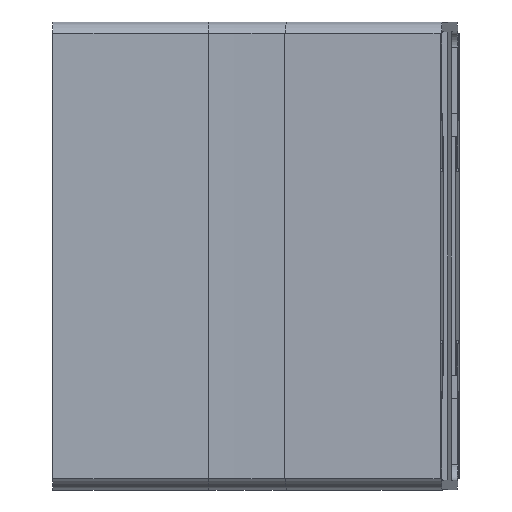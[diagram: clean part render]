
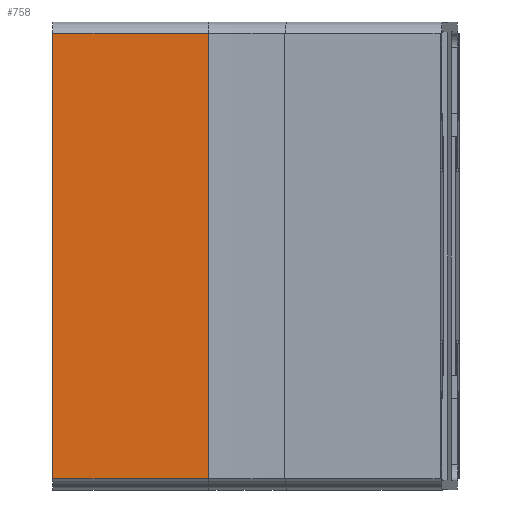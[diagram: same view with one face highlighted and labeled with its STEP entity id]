
A CAD part, front view. The second image highlights one B-rep face of the part: STEP entity #758.
In plain terms, the highlighted planar face has unit normal (0, -1, 0).
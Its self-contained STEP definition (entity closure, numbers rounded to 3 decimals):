
#38 = CARTESIAN_POINT ( 'NONE',  ( 40., -56.5, 57.15 ) ) ;
#56 = EDGE_CURVE ( 'NONE', #2858, #98, #503, .T. ) ;
#98 = VERTEX_POINT ( 'NONE', #3702 ) ;
#103 = ORIENTED_EDGE ( 'NONE', *, *, #4933, .T. ) ;
#122 = ORIENTED_EDGE ( 'NONE', *, *, #56, .F. ) ;
#437 = VECTOR ( 'NONE', #2116, 1000. ) ;
#448 = LINE ( 'NONE', #5417, #3785 ) ;
#461 = DIRECTION ( 'NONE',  ( -1., 0., 0. ) ) ;
#503 = LINE ( 'NONE', #5402, #5022 ) ;
#683 = DIRECTION ( 'NONE',  ( 0., 0., 1. ) ) ;
#758 = ADVANCED_FACE ( 'NONE', ( #1418 ), #1976, .F. ) ;
#866 = EDGE_CURVE ( 'NONE', #4201, #98, #5114, .T. ) ;
#1078 = DIRECTION ( 'NONE',  ( 0., 0., -1. ) ) ;
#1418 = FACE_OUTER_BOUND ( 'NONE', #2540, .T. ) ;
#1652 = CARTESIAN_POINT ( 'NONE',  ( 0., -56.5, -57.15 ) ) ;
#1976 = PLANE ( 'NONE',  #4661 ) ;
#2081 = VERTEX_POINT ( 'NONE', #5623 ) ;
#2116 = DIRECTION ( 'NONE',  ( 0., 0., -1. ) ) ;
#2409 = DIRECTION ( 'NONE',  ( 0., 1., 0. ) ) ;
#2540 = EDGE_LOOP ( 'NONE', ( #2838, #103, #3566, #122 ) ) ;
#2838 = ORIENTED_EDGE ( 'NONE', *, *, #3829, .F. ) ;
#2858 = VERTEX_POINT ( 'NONE', #5459 ) ;
#3566 = ORIENTED_EDGE ( 'NONE', *, *, #866, .T. ) ;
#3702 = CARTESIAN_POINT ( 'NONE',  ( 0., -56.5, -57.15 ) ) ;
#3762 = LINE ( 'NONE', #38, #3920 ) ;
#3785 = VECTOR ( 'NONE', #1078, 1000. ) ;
#3829 = EDGE_CURVE ( 'NONE', #2081, #2858, #448, .T. ) ;
#3920 = VECTOR ( 'NONE', #461, 1000. ) ;
#4067 = DIRECTION ( 'NONE',  ( -1., 0., 0. ) ) ;
#4201 = VERTEX_POINT ( 'NONE', #5119 ) ;
#4611 = CARTESIAN_POINT ( 'NONE',  ( 40., -56.5, -57.15 ) ) ;
#4661 = AXIS2_PLACEMENT_3D ( 'NONE', #4611, #2409, #683 ) ;
#4933 = EDGE_CURVE ( 'NONE', #2081, #4201, #3762, .T. ) ;
#5022 = VECTOR ( 'NONE', #4067, 1000. ) ;
#5114 = LINE ( 'NONE', #1652, #437 ) ;
#5119 = CARTESIAN_POINT ( 'NONE',  ( 0., -56.5, 57.15 ) ) ;
#5402 = CARTESIAN_POINT ( 'NONE',  ( 40., -56.5, -57.15 ) ) ;
#5417 = CARTESIAN_POINT ( 'NONE',  ( 40., -56.5, 0. ) ) ;
#5459 = CARTESIAN_POINT ( 'NONE',  ( 40., -56.5, -57.15 ) ) ;
#5623 = CARTESIAN_POINT ( 'NONE',  ( 40., -56.5, 57.15 ) ) ;
